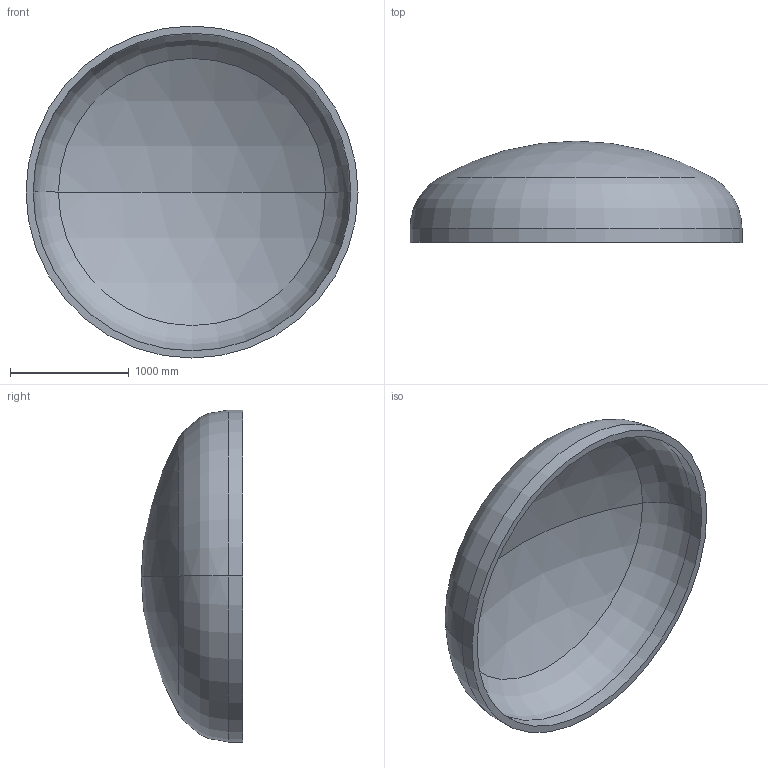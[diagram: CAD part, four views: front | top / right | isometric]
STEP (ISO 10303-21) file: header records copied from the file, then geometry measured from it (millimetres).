
FILE_DESCRIPTION (( 'STEP AP203' ), '1' );
FILE_NAME ('DIN 28013 Korbbogenform_-_Boden DIN 28013 - 2800 x 120 - I - s=60.step', '2016-07-01T17:06:30', ( '' ), ( '' ), 'SwSTEP 2.0', 'SolidWorks 2013', '' );
FILE_SCHEMA (( 'CONFIG_CONTROL_DESIGN' ));
Length unit declared in the file: millimetre
Products named in the file (1): DIN 28013 Korbbogenform_-_Boden DIN 28013 - 2800 x 120 - I - s=60
Bounding box: 2800 x 855.39 x 2800 mm (x, y, z)
Volume: 559167692.4 mm3; surface area: 19162934.5 mm2
Topology: 1 solids, 1 shells, 13 faces, 24 edges, 14 vertices
Faces by surface type: torus 4, cylinder 4, sphere 4, plane 1
Entity records: 407 total; most frequent: DIRECTION 72, CARTESIAN_POINT 52, ORIENTED_EDGE 48, AXIS2_PLACEMENT_3D 34, EDGE_CURVE 24, CIRCLE 20, VERTEX_POINT 14, EDGE_LOOP 14
